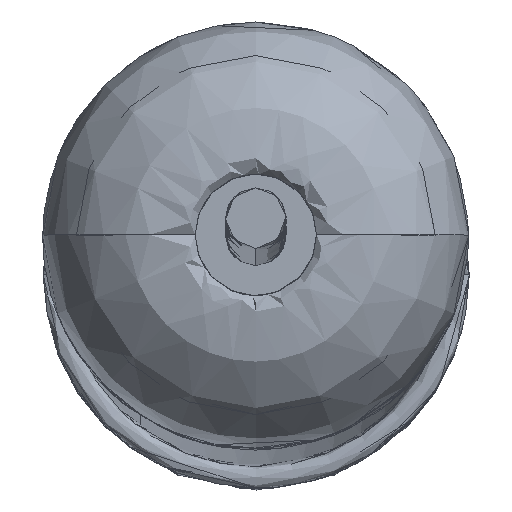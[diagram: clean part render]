
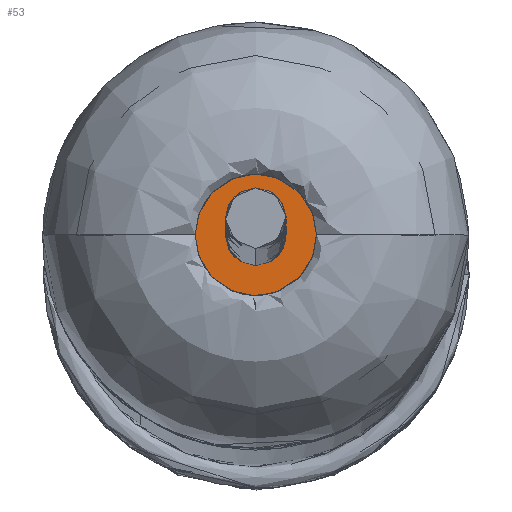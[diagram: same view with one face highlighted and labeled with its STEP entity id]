
A CAD part, top view. The second image highlights one B-rep face of the part: STEP entity #53.
In plain terms, the highlighted free-form (B-spline) face has degree [1, 1] with [2, 2] control points.
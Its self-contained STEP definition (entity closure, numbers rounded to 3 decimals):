
#53=ADVANCED_FACE('',(#81),#721,.T.);
#81=FACE_OUTER_BOUND('',#111,.T.);
#111=EDGE_LOOP('',(#203,#204));
#203=ORIENTED_EDGE('',*,*,#607,.T.);
#204=ORIENTED_EDGE('',*,*,#608,.T.);
#303=B_SPLINE_CURVE_WITH_KNOTS('',1,(#1891,#1892),.UNSPECIFIED.,.F.,.F.,
(2,2),(-29.845,0.),.UNSPECIFIED.);
#309=B_SPLINE_CURVE_WITH_KNOTS('',1,(#1903,#1904),.UNSPECIFIED.,.F.,.F.,
(2,2),(-59.69,-29.845),.UNSPECIFIED.);
#401=PCURVE('',#721,#501);
#402=PCURVE('',#721,#502);
#405=PCURVE('',#715,#505);
#409=PCURVE('',#716,#509);
#501=DEFINITIONAL_REPRESENTATION('',(#658),#1912);
#502=DEFINITIONAL_REPRESENTATION('',(#660),#1912);
#505=DEFINITIONAL_REPRESENTATION('',(#303),#1912);
#509=DEFINITIONAL_REPRESENTATION('',(#309),#1912);
#557=SURFACE_CURVE('',#657,(#401,#409),.PCURVE_S1.);
#558=SURFACE_CURVE('',#659,(#402,#405),.PCURVE_S1.);
#607=EDGE_CURVE('',#691,#692,#557,.T.);
#608=EDGE_CURVE('',#692,#691,#558,.T.);
#657=(
BOUNDED_CURVE()
B_SPLINE_CURVE(2,(#1851,#1852,#1853,#1854,#1855),.UNSPECIFIED.,.F.,.F.)
B_SPLINE_CURVE_WITH_KNOTS((3,2,3),(-59.69,-44.768,
-29.845),.UNSPECIFIED.)
CURVE()
GEOMETRIC_REPRESENTATION_ITEM()
RATIONAL_B_SPLINE_CURVE((1.,0.707,1.,0.707,1.))
REPRESENTATION_ITEM('')
);
#658=(
BOUNDED_CURVE()
B_SPLINE_CURVE(2,(#1856,#1857,#1858,#1859,#1860),.UNSPECIFIED.,.F.,.F.)
B_SPLINE_CURVE_WITH_KNOTS((3,2,3),(-59.69,-44.768,
-29.845),.UNSPECIFIED.)
CURVE()
GEOMETRIC_REPRESENTATION_ITEM()
RATIONAL_B_SPLINE_CURVE((1.,0.707,1.,0.707,1.))
REPRESENTATION_ITEM('')
);
#659=(
BOUNDED_CURVE()
B_SPLINE_CURVE(2,(#1861,#1862,#1863,#1864,#1865),.UNSPECIFIED.,.F.,.F.)
B_SPLINE_CURVE_WITH_KNOTS((3,2,3),(-29.845,-14.923,0.),
 .UNSPECIFIED.)
CURVE()
GEOMETRIC_REPRESENTATION_ITEM()
RATIONAL_B_SPLINE_CURVE((1.,0.707,1.,0.707,1.))
REPRESENTATION_ITEM('')
);
#660=(
BOUNDED_CURVE()
B_SPLINE_CURVE(2,(#1866,#1867,#1868,#1869,#1870),.UNSPECIFIED.,.F.,.F.)
B_SPLINE_CURVE_WITH_KNOTS((3,2,3),(-29.845,-14.923,0.),
 .UNSPECIFIED.)
CURVE()
GEOMETRIC_REPRESENTATION_ITEM()
RATIONAL_B_SPLINE_CURVE((1.,0.707,1.,0.707,1.))
REPRESENTATION_ITEM('')
);
#691=VERTEX_POINT('',#1847);
#692=VERTEX_POINT('',#1848);
#715=(
BOUNDED_SURFACE()
B_SPLINE_SURFACE(2,1,((#1827,#1828),(#1829,#1830),(#1831,#1832),(#1833,
#1834),(#1835,#1836)),.UNSPECIFIED.,.F.,.F.,.F.)
B_SPLINE_SURFACE_WITH_KNOTS((3,2,3),(2,2),(0.,14.923,29.845),
(0.,900.),.UNSPECIFIED.)
GEOMETRIC_REPRESENTATION_ITEM()
RATIONAL_B_SPLINE_SURFACE(((1.,1.),(0.707,0.707),
(1.,1.),(0.707,0.707),(1.,1.)))
REPRESENTATION_ITEM('')
SURFACE()
);
#716=(
BOUNDED_SURFACE()
B_SPLINE_SURFACE(2,1,((#1837,#1838),(#1839,#1840),(#1841,#1842),(#1843,
#1844),(#1845,#1846)),.UNSPECIFIED.,.F.,.F.,.F.)
B_SPLINE_SURFACE_WITH_KNOTS((3,2,3),(2,2),(29.845,44.768,
59.69),(0.,900.),.UNSPECIFIED.)
GEOMETRIC_REPRESENTATION_ITEM()
RATIONAL_B_SPLINE_SURFACE(((1.,1.),(0.707,0.707),
(1.,1.),(0.707,0.707),(1.,1.)))
REPRESENTATION_ITEM('')
SURFACE()
);
#721=B_SPLINE_SURFACE_WITH_KNOTS('',1,1,((#1819,#1820),(#1821,#1822)),
 .UNSPECIFIED.,.F.,.F.,.F.,(2,2),(2,2),(-9.69,9.69),
(-9.69,9.69),.UNSPECIFIED.);
#1819=CARTESIAN_POINT('',(2482.722,17.537,1387.218));
#1820=CARTESIAN_POINT('',(2494.511,32.918,1387.218));
#1821=CARTESIAN_POINT('',(2498.103,5.747,1387.218));
#1822=CARTESIAN_POINT('',(2509.893,21.129,1387.218));
#1827=CARTESIAN_POINT('',(2502.086,26.873,1387.218));
#1828=CARTESIAN_POINT('',(2502.086,26.873,-95.609));
#1829=CARTESIAN_POINT('',(2509.626,21.094,1387.218));
#1830=CARTESIAN_POINT('',(2509.626,21.094,-95.609));
#1831=CARTESIAN_POINT('',(2503.847,13.554,1387.218));
#1832=CARTESIAN_POINT('',(2503.847,13.554,-95.609));
#1833=CARTESIAN_POINT('',(2498.068,6.014,1387.218));
#1834=CARTESIAN_POINT('',(2498.068,6.014,-95.609));
#1835=CARTESIAN_POINT('',(2490.528,11.793,1387.218));
#1836=CARTESIAN_POINT('',(2490.528,11.793,-95.609));
#1837=CARTESIAN_POINT('',(2490.528,11.793,1387.218));
#1838=CARTESIAN_POINT('',(2490.528,11.793,-95.609));
#1839=CARTESIAN_POINT('',(2482.988,17.572,1387.218));
#1840=CARTESIAN_POINT('',(2482.988,17.572,-95.609));
#1841=CARTESIAN_POINT('',(2488.767,25.112,1387.218));
#1842=CARTESIAN_POINT('',(2488.767,25.112,-95.609));
#1843=CARTESIAN_POINT('',(2494.546,32.652,1387.218));
#1844=CARTESIAN_POINT('',(2494.546,32.652,-95.609));
#1845=CARTESIAN_POINT('',(2502.086,26.873,1387.218));
#1846=CARTESIAN_POINT('',(2502.086,26.873,-95.609));
#1847=CARTESIAN_POINT('',(2502.086,26.873,1387.218));
#1848=CARTESIAN_POINT('',(2490.528,11.793,1387.218));
#1851=CARTESIAN_POINT('',(2502.086,26.873,1387.218));
#1852=CARTESIAN_POINT('',(2494.546,32.652,1387.218));
#1853=CARTESIAN_POINT('',(2488.767,25.112,1387.218));
#1854=CARTESIAN_POINT('',(2482.988,17.572,1387.218));
#1855=CARTESIAN_POINT('',(2490.528,11.793,1387.218));
#1856=CARTESIAN_POINT('',(0.,9.5));
#1857=CARTESIAN_POINT('',(-9.5,9.5));
#1858=CARTESIAN_POINT('',(-9.5,0.));
#1859=CARTESIAN_POINT('',(-9.5,-9.5));
#1860=CARTESIAN_POINT('',(0.,-9.5));
#1861=CARTESIAN_POINT('',(2490.528,11.793,1387.218));
#1862=CARTESIAN_POINT('',(2498.068,6.014,1387.218));
#1863=CARTESIAN_POINT('',(2503.847,13.554,1387.218));
#1864=CARTESIAN_POINT('',(2509.626,21.094,1387.218));
#1865=CARTESIAN_POINT('',(2502.086,26.873,1387.218));
#1866=CARTESIAN_POINT('',(0.,-9.5));
#1867=CARTESIAN_POINT('',(9.5,-9.5));
#1868=CARTESIAN_POINT('',(9.5,0.));
#1869=CARTESIAN_POINT('',(9.5,9.5));
#1870=CARTESIAN_POINT('',(0.,9.5));
#1891=CARTESIAN_POINT('',(29.845,0.));
#1892=CARTESIAN_POINT('',(0.,0.));
#1903=CARTESIAN_POINT('',(59.69,0.));
#1904=CARTESIAN_POINT('',(29.845,0.));
#1912=(
GEOMETRIC_REPRESENTATION_CONTEXT(2)
PARAMETRIC_REPRESENTATION_CONTEXT()
REPRESENTATION_CONTEXT('pspace','')
);
